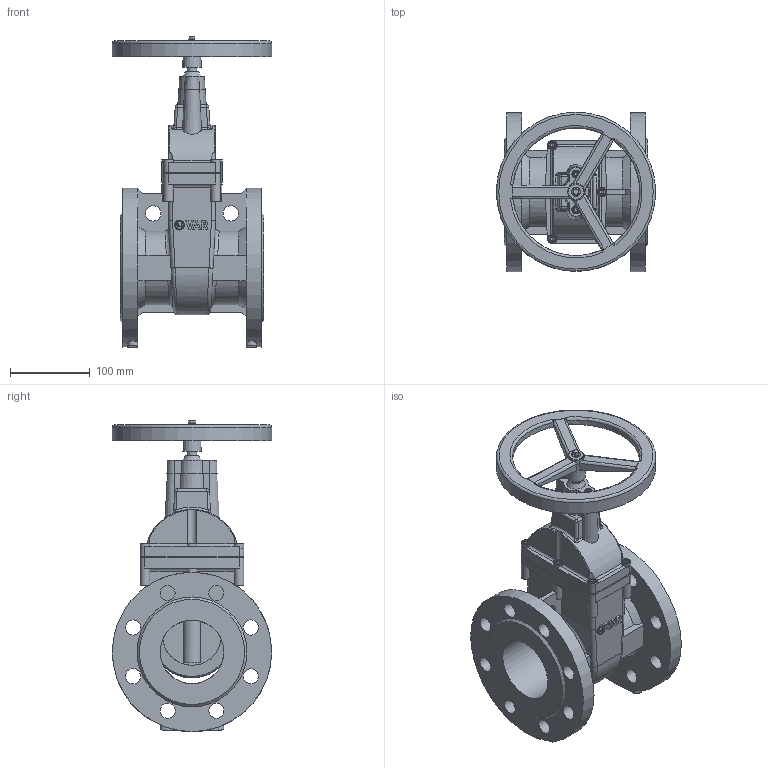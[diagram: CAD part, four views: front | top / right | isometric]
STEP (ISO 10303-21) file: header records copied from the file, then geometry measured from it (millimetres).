
FILE_DESCRIPTION(('STEP AP242'), '1');
FILE_NAME('青溻桄赅', '', ('UNSPECIFIED'), ('UNSPECIFIED'), 'C3D Converter', 'C3D Toolkit', '');
FILE_SCHEMA(('AP242_MANAGED_MODEL_BASED_3D_ENGINEERING_MIM_LF { 1 0 10303 442 1 1 4 }'));
Length unit declared in the file: millimetre
Assembly tree (17 placements, depth 2):
  (unnamed)
    (unnamed)
    (unnamed)
    (unnamed)
    (unnamed)
    (unnamed)  x2
    (unnamed)
    (unnamed)
    (unnamed)  x6
    (unnamed)  x2
    (unnamed)
Bounding box: 200 x 200 x 390.6 mm (x, y, z)
Volume: 2227052.2 mm3; surface area: 532624.1 mm2
Topology: 20 solids, 20 shells, 940 faces, 2344 edges, 1491 vertices
Faces by surface type: plane 459, cylinder 196, extrusion 137, cone 69, bspline 58, torus 21
Full cylindrical faces by diameter (mm): 5 x11, 6 x30, 10 x8, 10.2 x8, 12 x7, 12.606 x1, 19 x16, 19.289 x2, 24.667 x3, 73.667 x2, 80 x4, 100.267 x4, 105.333 x1, 160 x1, 170 x1, 190 x1, 200 x3
Entity records: 40401 total; most frequent: CARTESIAN_POINT 19640, ORIENTED_EDGE 3796, DIRECTION 3032, EDGE_CURVE 1898, VERTEX_POINT 1296, EDGE_LOOP 1054, VECTOR 1018, AXIS2_PLACEMENT_3D 1007
